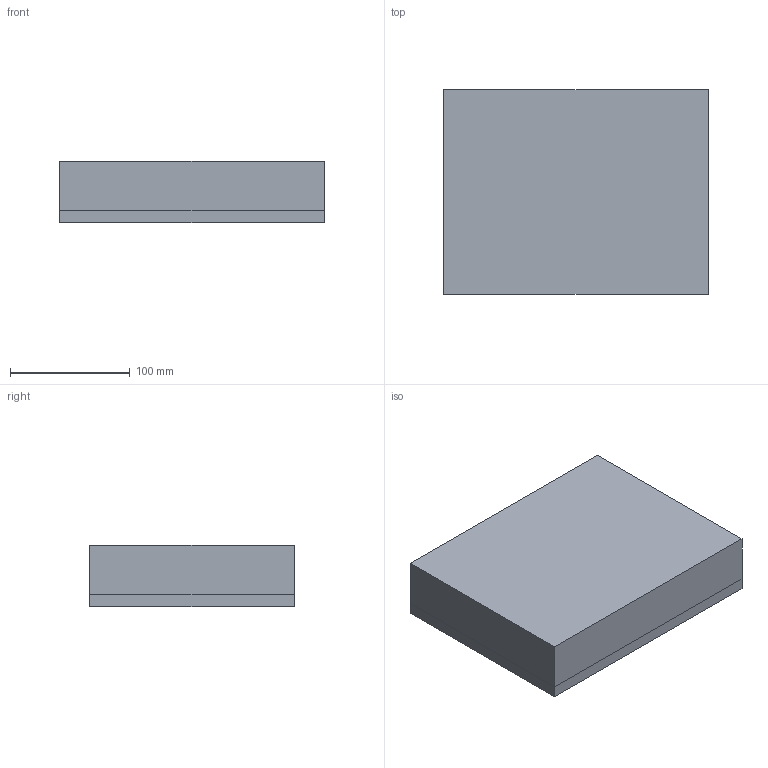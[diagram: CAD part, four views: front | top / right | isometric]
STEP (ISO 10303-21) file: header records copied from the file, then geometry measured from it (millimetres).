
FILE_DESCRIPTION(('CATIA V5 STEP Exchange'),'2;1');
FILE_NAME('C:\_Andres\UNIVERSIDAD\IQS\ASIGNATURAS\DAO\Controles\1920\c2\c2-Valentini_Kevin.stp','2020-02-10T15:38:42+00:00',('none'),('none'),'CATIA Version 5 Release 19 SP 3 (IN-10)','CATIA V5 STEP AP203','none');
FILE_SCHEMA(('CONFIG_CONTROL_DESIGN'));
Length unit declared in the file: millimetre
Products named in the file (1): c2-Valentini_Kevin
Bounding box: 221 x 171 x 51 mm (x, y, z)
Surface area: 293091.2 mm2
Topology: 3 solids, 3 shells, 103 faces, 232 edges, 128 vertices
Faces by surface type: cylinder 40, plane 27, bspline 24, sphere 12
Entity records: 3348 total; most frequent: CARTESIAN_POINT 1636, ORIENTED_EDGE 440, DIRECTION 224, EDGE_CURVE 164, EDGE_LOOP 110, ADVANCED_FACE 103, FACE_OUTER_BOUND 103, AXIS2_PLACEMENT_3D 96
